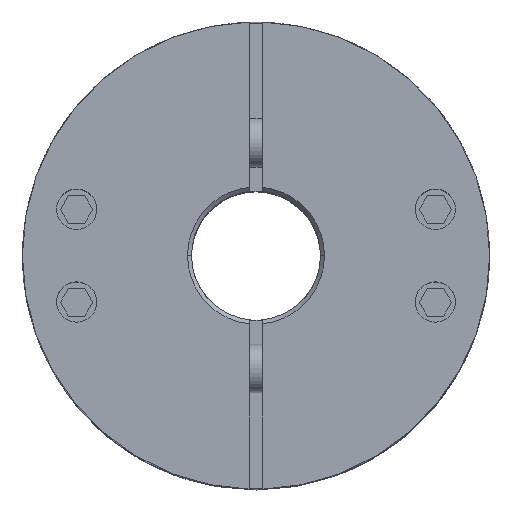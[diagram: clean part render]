
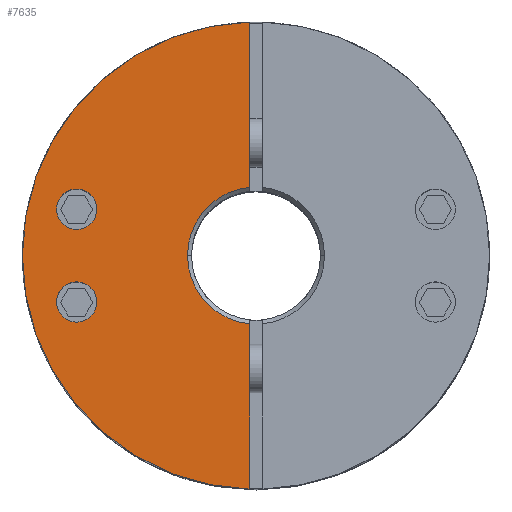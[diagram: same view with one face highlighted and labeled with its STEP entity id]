
A CAD part, top view. The second image highlights one B-rep face of the part: STEP entity #7635.
In plain terms, the highlighted planar face has unit normal (0, 0, 1).
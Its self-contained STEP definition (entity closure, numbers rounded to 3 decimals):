
#4241=CARTESIAN_POINT('',(-19.767,-5.759,27.125));
#4242=VERTEX_POINT('',#4241);
#4251=CARTESIAN_POINT('',(-24.767,-5.759,27.125));
#4252=VERTEX_POINT('',#4251);
#4253=CARTESIAN_POINT('',(-22.267,-5.759,27.125));
#4254=DIRECTION('',(0.0,0.0,-1.0));
#4255=DIRECTION('',(1.0,0.0,0.0));
#4256=AXIS2_PLACEMENT_3D('',#4253,#4254,#4255);
#4257=CIRCLE('',#4256,2.5);
#4258=EDGE_CURVE('',#4252,#4242,#4257,.T.);
#4367=CARTESIAN_POINT('',(-19.767,5.759,27.125));
#4368=VERTEX_POINT('',#4367);
#4377=CARTESIAN_POINT('',(-24.767,5.759,27.125));
#4378=VERTEX_POINT('',#4377);
#4379=CARTESIAN_POINT('',(-22.267,5.759,27.125));
#4380=DIRECTION('',(0.0,0.0,-1.0));
#4381=DIRECTION('',(1.0,0.0,0.0));
#4382=AXIS2_PLACEMENT_3D('',#4379,#4380,#4381);
#4383=CIRCLE('',#4382,2.5);
#4384=EDGE_CURVE('',#4378,#4368,#4383,.T.);
#4596=CARTESIAN_POINT('',(-29.0,0.,27.125));
#4597=VERTEX_POINT('',#4596);
#4604=CARTESIAN_POINT('',(-0.75,28.99,27.125));
#4605=VERTEX_POINT('',#4604);
#4606=CARTESIAN_POINT('',(0.0,0.0,27.125));
#4607=DIRECTION('',(0.0,0.0,-1.0));
#4608=DIRECTION('',(1.0,0.0,0.0));
#4609=AXIS2_PLACEMENT_3D('',#4606,#4607,#4608);
#4610=CIRCLE('',#4609,29.0);
#4611=EDGE_CURVE('',#4597,#4605,#4610,.T.);
#4962=CARTESIAN_POINT('',(-8.5,0.,27.125));
#4963=VERTEX_POINT('',#4962);
#4979=CARTESIAN_POINT('',(-0.75,8.467,27.125));
#4980=VERTEX_POINT('',#4979);
#4994=CARTESIAN_POINT('',(0.0,0.0,27.125));
#4995=DIRECTION('',(0.0,0.0,1.0));
#4996=DIRECTION('',(-1.0,0.0,0.0));
#4997=AXIS2_PLACEMENT_3D('',#4994,#4995,#4996);
#4998=CIRCLE('',#4997,8.5);
#4999=EDGE_CURVE('',#4980,#4963,#4998,.T.);
#7388=CARTESIAN_POINT('',(-0.75,-8.467,27.125));
#7389=VERTEX_POINT('',#7388);
#7390=CARTESIAN_POINT('',(0.0,0.0,27.125));
#7391=DIRECTION('',(0.0,0.0,1.0));
#7392=DIRECTION('',(-1.0,0.0,0.0));
#7393=AXIS2_PLACEMENT_3D('',#7390,#7391,#7392);
#7394=CIRCLE('',#7393,8.5);
#7395=EDGE_CURVE('',#4963,#7389,#7394,.T.);
#7428=CARTESIAN_POINT('',(-0.75,8.467,27.125));
#7429=DIRECTION('',(0.0,1.0,0.0));
#7430=VECTOR('',#7429,20.523);
#7431=LINE('',#7428,#7430);
#7432=EDGE_CURVE('',#4980,#4605,#7431,.T.);
#7542=CARTESIAN_POINT('',(-0.75,-28.99,27.125));
#7543=VERTEX_POINT('',#7542);
#7544=CARTESIAN_POINT('',(-0.75,-28.99,27.125));
#7545=DIRECTION('',(0.0,1.0,0.0));
#7546=VECTOR('',#7545,20.523);
#7547=LINE('',#7544,#7546);
#7548=EDGE_CURVE('',#7543,#7389,#7547,.T.);
#7596=CARTESIAN_POINT('',(2.636,0.,27.125));
#7597=DIRECTION('',(0.0,0.0,1.0));
#7598=DIRECTION('',(1.0,0.0,0.0));
#7599=AXIS2_PLACEMENT_3D('',#7596,#7597,#7598);
#7600=PLANE('',#7599);
#7601=ORIENTED_EDGE('',*,*,#4999,.F.);
#7602=ORIENTED_EDGE('',*,*,#7432,.T.);
#7603=ORIENTED_EDGE('',*,*,#4611,.F.);
#7604=CARTESIAN_POINT('',(0.0,0.0,27.125));
#7605=DIRECTION('',(0.0,0.0,-1.0));
#7606=DIRECTION('',(1.0,0.0,0.0));
#7607=AXIS2_PLACEMENT_3D('',#7604,#7605,#7606);
#7608=CIRCLE('',#7607,29.0);
#7609=EDGE_CURVE('',#7543,#4597,#7608,.T.);
#7610=ORIENTED_EDGE('',*,*,#7609,.F.);
#7611=ORIENTED_EDGE('',*,*,#7548,.T.);
#7612=ORIENTED_EDGE('',*,*,#7395,.F.);
#7613=EDGE_LOOP('',(#7601,#7602,#7603,#7610,#7611,#7612));
#7614=FACE_OUTER_BOUND('',#7613,.T.);
#7615=CARTESIAN_POINT('',(-22.267,-5.759,27.125));
#7616=DIRECTION('',(0.0,0.0,-1.0));
#7617=DIRECTION('',(1.0,0.0,0.0));
#7618=AXIS2_PLACEMENT_3D('',#7615,#7616,#7617);
#7619=CIRCLE('',#7618,2.5);
#7620=EDGE_CURVE('',#4242,#4252,#7619,.T.);
#7621=ORIENTED_EDGE('',*,*,#7620,.T.);
#7622=ORIENTED_EDGE('',*,*,#4258,.T.);
#7623=EDGE_LOOP('',(#7621,#7622));
#7624=FACE_BOUND('',#7623,.T.);
#7625=CARTESIAN_POINT('',(-22.267,5.759,27.125));
#7626=DIRECTION('',(0.0,0.0,-1.0));
#7627=DIRECTION('',(1.0,0.0,0.0));
#7628=AXIS2_PLACEMENT_3D('',#7625,#7626,#7627);
#7629=CIRCLE('',#7628,2.5);
#7630=EDGE_CURVE('',#4368,#4378,#7629,.T.);
#7631=ORIENTED_EDGE('',*,*,#7630,.T.);
#7632=ORIENTED_EDGE('',*,*,#4384,.T.);
#7633=EDGE_LOOP('',(#7631,#7632));
#7634=FACE_BOUND('',#7633,.T.);
#7635=ADVANCED_FACE('',(#7614,#7624,#7634),#7600,.T.);
